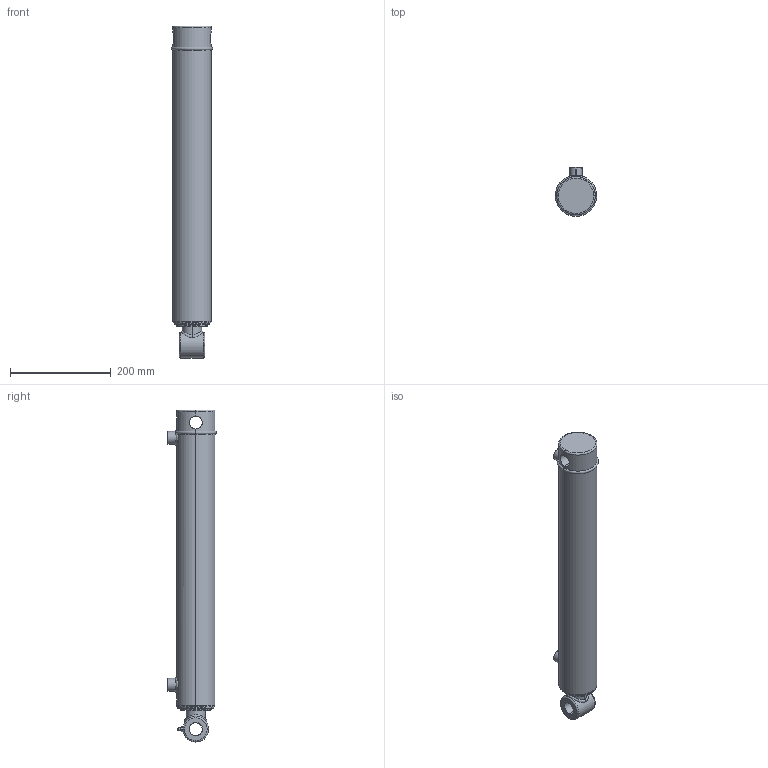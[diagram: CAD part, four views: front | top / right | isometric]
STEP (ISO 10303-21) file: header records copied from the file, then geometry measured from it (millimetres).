
FILE_DESCRIPTION (( 'STEP AP203' ), '1' );
FILE_NAME ('SB-C250150x457 (18).STEP', '2014-11-19T01:19:10', ( '' ), ( '' ), 'SwSTEP 2.0', 'SolidWorks 2014', '' );
FILE_SCHEMA (( 'CONFIG_CONTROL_DESIGN' ));
Length unit declared in the file: millimetre
Products named in the file (7): 2.5 INCH CIRCLIP; SB-C250150x457 (18) BODY; 18 SPARE; 18 NPT GREASE NIPPLE; SPARE 18; SB-C250150x457 (18); SB-C250250X457 (18) BODY
Assembly tree (6 placements, depth 3):
  SB-C250150x457 (18)
    SB-C250150x457 (18) BODY
      SB-C250250X457 (18) BODY
      2.5 INCH CIRCLIP
    SPARE 18
      18 SPARE
      18 NPT GREASE NIPPLE
Bounding box: 82.2 x 97.2 x 658.4 mm (x, y, z)
Volume: 3088159.2 mm3; surface area: 275968 mm2
Topology: 4 solids, 4 shells, 135 faces, 315 edges, 197 vertices
Faces by surface type: cylinder 51, plane 29, cone 22, bspline 19, torus 12, sphere 2
Entity records: 10875 total; most frequent: CARTESIAN_POINT 7141, DIRECTION 640, ORIENTED_EDGE 622, EDGE_CURVE 311, AXIS2_PLACEMENT_3D 271, VERTEX_POINT 197, EDGE_LOOP 160, CIRCLE 144
